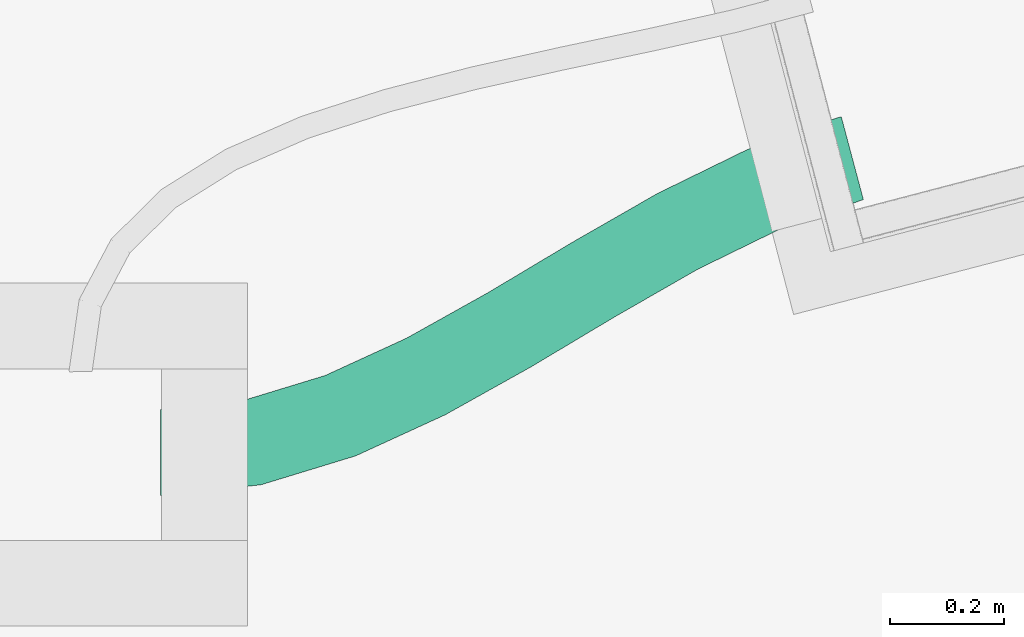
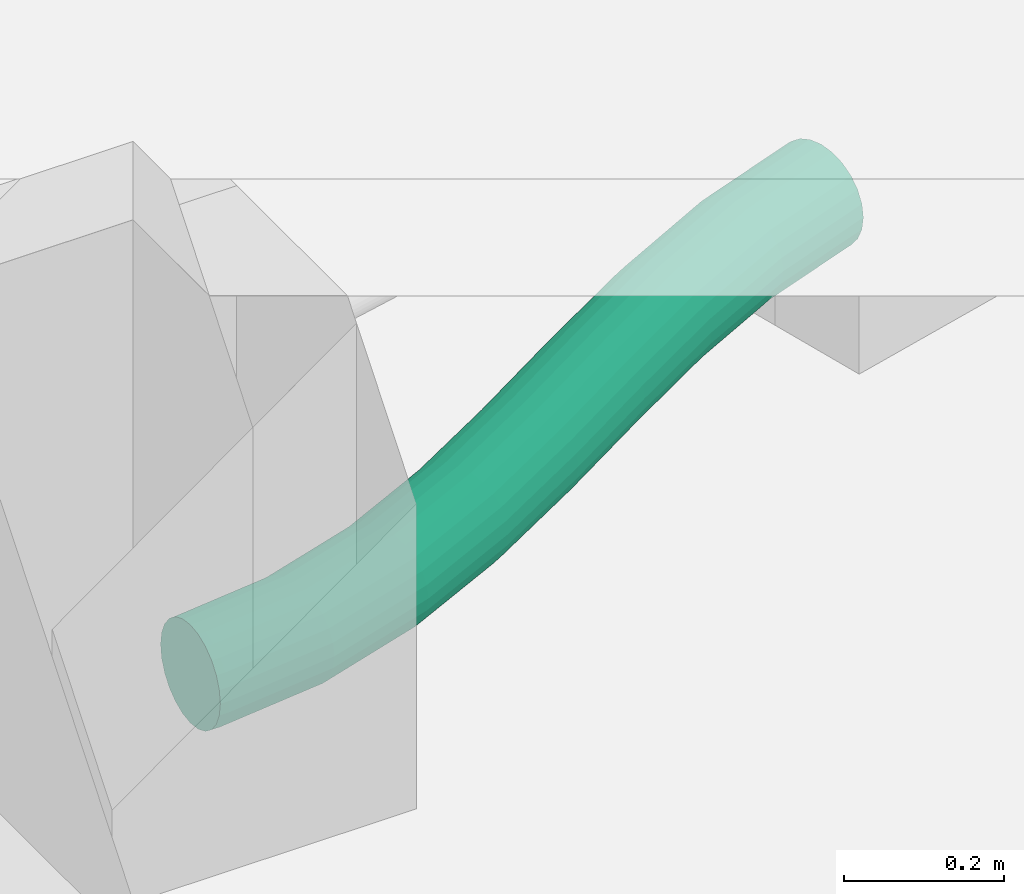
# One storey, part 19 of 29: 1 flow segment.
"""IFC2X3 building model written with IfcOpenShell, lengths in centimetres."""

from ifc_helpers import new_model, entity, si_unit, converted_unit, derived_unit, direction, frame, origin, place, context, subcontext, project, spatial, faceted_brep, type_object, element, save


model = new_model("IFC2X3")

# Units and contexts
model_context = context("Model", 3, precision=0.001, world=origin(), true_north=direction((6.12303176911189e-17, 1.0)))
body_context = subcontext(model_context, "Body", "Model", "MODEL_VIEW")
ifc_project = project(units=[si_unit("LENGTHUNIT", "METRE", prefix="CENTI"), si_unit("AREAUNIT", "SQUARE_METRE"), si_unit("VOLUMEUNIT", "CUBIC_METRE"), converted_unit("PLANEANGLEUNIT", "DEGREE", entity("IfcRatioMeasure", 0.0174532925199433), si_unit("PLANEANGLEUNIT", "RADIAN"), dimensions=[0, 0, 0, 0, 0, 0, 0]), si_unit("MASSUNIT", "GRAM", prefix="KILO"), derived_unit("MASSDENSITYUNIT", [(si_unit("MASSUNIT", "GRAM", prefix="KILO"), 1), (si_unit("LENGTHUNIT", "METRE"), -3)]), si_unit("TIMEUNIT", "SECOND"), si_unit("FREQUENCYUNIT", "HERTZ"), si_unit("THERMODYNAMICTEMPERATUREUNIT", "DEGREE_CELSIUS"), derived_unit("THERMALTRANSMITTANCEUNIT", [(si_unit("MASSUNIT", "GRAM", prefix="KILO"), 1), (si_unit("THERMODYNAMICTEMPERATUREUNIT", "KELVIN"), -1), (si_unit("TIMEUNIT", "SECOND"), -3)]), derived_unit("VOLUMETRICFLOWRATEUNIT", [(si_unit("LENGTHUNIT", "METRE"), 3), (si_unit("TIMEUNIT", "SECOND"), -1)]), si_unit("ELECTRICCURRENTUNIT", "AMPERE"), si_unit("ELECTRICVOLTAGEUNIT", "VOLT"), si_unit("POWERUNIT", "WATT"), si_unit("FORCEUNIT", "NEWTON"), si_unit("ILLUMINANCEUNIT", "LUX"), si_unit("LUMINOUSFLUXUNIT", "LUMEN"), si_unit("LUMINOUSINTENSITYUNIT", "CANDELA"), derived_unit("USERDEFINED", [(si_unit("MASSUNIT", "GRAM", prefix="KILO"), -1), (si_unit("LENGTHUNIT", "METRE"), -2), (si_unit("TIMEUNIT", "SECOND"), 3), (si_unit("LUMINOUSFLUXUNIT", "LUMEN"), 1)]), derived_unit("LINEARVELOCITYUNIT", [(si_unit("LENGTHUNIT", "METRE"), 1), (si_unit("TIMEUNIT", "SECOND"), -1)]), si_unit("PRESSUREUNIT", "PASCAL"), derived_unit("USERDEFINED", [(si_unit("LENGTHUNIT", "METRE"), -2), (si_unit("MASSUNIT", "GRAM", prefix="KILO"), 1), (si_unit("TIMEUNIT", "SECOND"), -2)])], contexts=[model_context])

# Site, building, storey
site_placement = place(None, origin())
site = spatial("IfcSite", under=ifc_project, at=site_placement, Name="Default", CompositionType="ELEMENT")
building_placement = place(site_placement, origin())
building = spatial("IfcBuilding", under=site, at=building_placement, Name="CAGE 03", CompositionType="ELEMENT")
storey_placement = place(building_placement, frame((0.0, 0.0, -34.0)))
storey = spatial("IfcBuildingStorey", under=building, at=storey_placement, Name="+3.66", CompositionType="ELEMENT", Elevation=-34.0000000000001)

# Flow segment
pipe_segment_type = type_object("IfcPipeSegmentType", Name="Canalisation souple arrondie:Flex - Round", PredefinedType="FLEXIBLESEGMENT")
flow_segment_placement = place(storey_placement, frame((11276.2156607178, 3660.17423652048, -80.1595294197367)))
element("IfcFlowSegment", 1, at=flow_segment_placement, inside=storey, type_object=pipe_segment_type, Name="Canalisation souple arrondie:Flex - Round", ObjectType="Canalisation souple arrondie:Flex - Round", context=body_context, shape_type="Brep", body=[
    faceted_brep([(119.541802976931, 64.2181963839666, 2.35622636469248), (119.234461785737, 65.3697789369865, 3.90952722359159), (119.041259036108, 66.0936939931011, 5.71838438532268), (118.975361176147, 66.3406079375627, 7.65952722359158), (119.041259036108, 66.0936939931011, 9.60067006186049), (119.234461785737, 65.3697789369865, 11.4095272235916), (119.541802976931, 64.2181963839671, 12.9628280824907), (119.942337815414, 62.7174247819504, 14.1547177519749), (120.408770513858, 60.9697392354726, 14.9039709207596), (120.909314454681, 59.0942416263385, 15.1595272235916), (121.409858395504, 57.2187440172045, 14.9039709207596), (121.876291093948, 55.4710584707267, 14.1547177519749), (122.276825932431, 53.97028686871, 12.9628280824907), (122.584167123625, 52.8187043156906, 11.4095272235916), (122.777369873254, 52.094789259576, 9.6006700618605), (122.843267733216, 51.8478753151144, 7.6595272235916), (122.777369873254, 52.094789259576, 5.71838438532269), (122.584167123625, 52.8187043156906, 3.9095272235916), (122.276825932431, 53.97028686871, 2.3562263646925), (121.876291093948, 55.4710584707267, 1.16433669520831), (121.409858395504, 57.2187440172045, 0.415083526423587), (120.909314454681, 59.0942416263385, 0.159527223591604), (120.408770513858, 60.9697392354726, 0.415083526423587), (119.942337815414, 62.7174247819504, 1.16433669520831), (122.335658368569, 52.7523808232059, 3.90952722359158), (121.982764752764, 53.8918060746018, 2.35622636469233), (122.557496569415, 52.0361081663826, 5.71838438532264), (122.633161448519, 51.7918009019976, 7.65952722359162), (120.987300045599, 57.1059691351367, 0.415083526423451), (120.41256822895, 58.9616670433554, 0.159527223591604), (121.522864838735, 55.3767339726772, 1.16433669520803), (119.8378364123, 60.8173649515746, 0.41508352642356), (119.302271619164, 62.5466001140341, 1.16433669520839), (118.842371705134, 64.0315280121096, 2.35622636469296), (118.489478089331, 65.170953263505, 3.90952722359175), (118.267639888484, 65.8872259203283, 5.71838438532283), (118.191975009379, 66.1315331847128, 7.65952722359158), (118.267639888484, 65.8872259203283, 9.60067006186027), (118.489478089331, 65.170953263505, 11.4095272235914), (118.842371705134, 64.0315280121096, 12.9628280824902), (119.302271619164, 62.5466001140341, 14.1547177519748), (119.8378364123, 60.8173649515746, 14.9039709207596), (120.41256822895, 58.9616670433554, 15.1595272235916), (120.987300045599, 57.1059691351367, 14.9039709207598), (121.522864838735, 55.3767339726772, 14.1547177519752), (121.982764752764, 53.8918060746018, 12.9628280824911), (122.557496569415, 52.0361081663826, 9.60067006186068), (122.335658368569, 52.7523808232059, 11.4095272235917), (0.0167527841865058, 14.1563819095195, 3.90952722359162), (0.0153260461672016, 12.9644930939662, 2.35622636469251), (0.0134666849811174, 11.4111933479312, 1.16433669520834), (0.0113014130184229, 9.60233748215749, 0.415083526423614), (0.0089777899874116, 7.66119603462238, 0.159527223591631), (0.00665416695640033, 5.72005458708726, 0.415083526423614), (0.0044888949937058, 3.9111987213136, 1.16433669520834), (0.00262953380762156, 2.3578989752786, 2.35622636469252), (0.00120279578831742, 1.16601015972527, 3.90952722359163), (0.000305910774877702, 0.416757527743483, 5.71838438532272), (0.0, 0.16120140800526, 7.65952722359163), (0.000305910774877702, 0.416757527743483, 9.60067006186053), (0.00120279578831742, 1.16601015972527, 11.4095272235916), (0.00262953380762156, 2.3578989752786, 12.9628280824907), (0.0044888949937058, 3.9111987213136, 14.1547177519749), (0.00665416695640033, 5.72005458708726, 14.9039709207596), (0.0089777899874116, 7.66119603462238, 15.1595272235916), (0.0113014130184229, 9.60233748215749, 14.9039709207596), (0.0134666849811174, 11.4111933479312, 14.1547177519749), (0.0153260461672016, 12.9644930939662, 12.9628280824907), (0.0167527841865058, 14.1563819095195, 11.4095272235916), (0.0176496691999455, 14.9056345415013, 9.60067006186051), (0.0179555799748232, 15.1611906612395, 7.6595272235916), (0.0176496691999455, 14.9056345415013, 5.71838438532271), (108.170063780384, 46.9487075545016, 5.71838438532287), (107.879626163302, 47.6407234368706, 3.90952722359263), (108.269126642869, 46.7126738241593, 7.65952722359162), (107.417606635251, 48.7415617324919, 2.35622636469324), (106.114312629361, 51.8468762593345, 0.415083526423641), (105.361855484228, 53.6397304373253, 0.159527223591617), (106.815491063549, 50.176202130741, 1.16433669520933), (104.609398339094, 55.4325846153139, 0.415083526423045), (103.908219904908, 57.1032587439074, 1.1643366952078), (103.306104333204, 58.5378991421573, 2.35622636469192), (102.844084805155, 59.6387374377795, 3.90952722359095), (102.553647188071, 60.3307533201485, 5.71838438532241), (102.454584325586, 60.5667870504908, 7.65952722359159), (102.553647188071, 60.3307533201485, 9.6006700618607), (102.844084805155, 59.6387374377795, 11.4095272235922), (103.306104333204, 58.5378991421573, 12.9628280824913), (103.908219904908, 57.1032587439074, 14.1547177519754), (104.609398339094, 55.4325846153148, 14.90397092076), (105.361855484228, 53.6397304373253, 15.1595272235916), (106.114312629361, 51.8468762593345, 14.9039709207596), (106.815491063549, 50.176202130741, 14.1547177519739), (107.417606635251, 48.7415617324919, 12.96282808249), (107.879626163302, 47.6407234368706, 11.4095272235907), (108.170063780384, 46.9487075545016, 9.60067006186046), (93.7233892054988, 39.8833030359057, 5.71838438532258), (93.3720188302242, 40.5455186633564, 3.90952722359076), (93.8432350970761, 39.6574336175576, 7.65952722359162), (92.813069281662, 41.5989515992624, 2.35622636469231), (91.2363489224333, 44.5705420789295, 0.415083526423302), (90.3260289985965, 46.2861906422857, 0.159527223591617), (92.0846320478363, 42.9718121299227, 1.16433669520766), (89.4157090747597, 48.0018392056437, 0.415083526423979), (88.5674259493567, 49.6005691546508, 1.16433669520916), (87.8389887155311, 50.9734296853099, 2.35622636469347), (87.2800391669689, 52.0268626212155, 3.90952722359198), (86.9286687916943, 52.6890782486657, 5.71838438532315), (86.8088229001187, 52.9149476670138, 7.65952722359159), (86.9286687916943, 52.6890782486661, 9.60067006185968), (87.2800391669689, 52.0268626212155, 11.4095272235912), (87.8389887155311, 50.9734296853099, 12.9628280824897), (88.5674259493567, 49.6005691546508, 14.154717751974), (89.4157090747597, 48.0018392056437, 14.9039709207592), (90.3260289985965, 46.2861906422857, 15.1595272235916), (91.2363489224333, 44.5705420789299, 14.9039709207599), (92.0846320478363, 42.9718121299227, 14.1547177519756), (92.813069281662, 41.5989515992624, 12.962828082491), (93.3720188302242, 40.5455186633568, 11.4095272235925), (93.7233892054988, 39.8833030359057, 9.60067006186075), (79.2687904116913, 31.592037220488, 5.71838438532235), (78.8901903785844, 32.238633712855, 3.90952722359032), (79.3979238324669, 31.3714951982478, 7.65952722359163), (78.2879246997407, 33.2672201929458, 2.35622636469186), (76.5890154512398, 36.1687222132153, 0.415083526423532), (75.6081497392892, 37.8439051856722, 0.159527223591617), (77.5030367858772, 34.6077001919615, 1.16433669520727), (74.6272840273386, 39.5190881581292, 0.415083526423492), (73.7132626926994, 41.0801101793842, 1.16433669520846), (72.9283747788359, 42.4205901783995, 2.35622636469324), (72.3261090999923, 43.4491766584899, 3.90952722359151), (71.9475090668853, 44.0957731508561, 5.71838438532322), (71.8183756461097, 44.3163151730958, 7.65952722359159), (71.9475090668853, 44.0957731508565, 9.6006700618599), (72.3261090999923, 43.4491766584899, 11.4095272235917), (72.9283747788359, 42.4205901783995, 12.96282808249), (73.7132626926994, 41.0801101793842, 14.1547177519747), (74.6272840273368, 39.5190881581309, 14.903970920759), (75.6081497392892, 37.8439051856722, 15.1595272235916), (76.5890154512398, 36.1687222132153, 14.9039709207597), (77.5030367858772, 34.6077001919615, 14.154717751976), (78.2879246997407, 33.2672201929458, 12.9628280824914), (78.8901903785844, 32.238633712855, 11.409527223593), (79.2687904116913, 31.5920372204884, 9.60067006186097), (64.7674072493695, 22.6286970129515, 7.65952722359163), (64.6395311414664, 22.8499903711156, 5.71838438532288), (64.264617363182, 23.4987896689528, 3.90952722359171), (63.6682156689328, 24.5308803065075, 2.35622636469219), (62.8909698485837, 25.8759270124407, 1.16433669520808), (61.9858479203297, 27.4422670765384, 0.41508352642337), (61.0145324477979, 29.1231570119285, 0.159527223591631), (60.0432169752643, 30.8040469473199, 0.415083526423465), (59.1380950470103, 32.3703870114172, 1.16433669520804), (58.3608492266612, 33.7154337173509, 2.35622636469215), (57.764447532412, 34.7475243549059, 3.90952722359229), (57.3895337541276, 35.3963236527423, 5.71838438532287), (57.2616576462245, 35.6176170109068, 7.6595272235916), (57.3895337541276, 35.3963236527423, 9.60067006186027), (57.764447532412, 34.7475243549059, 11.4095272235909), (58.3608492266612, 33.7154337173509, 12.962828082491), (60.0432169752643, 30.8040469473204, 14.9039709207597), (61.0145324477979, 29.1231570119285, 15.1595272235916), (59.1380950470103, 32.3703870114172, 14.1547177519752), (61.9858479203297, 27.4422670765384, 14.9039709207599), (62.8909698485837, 25.8759270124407, 14.1547177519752), (63.6682156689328, 24.5308803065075, 12.9628280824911), (64.264617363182, 23.4987896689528, 11.4095272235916), (64.6395311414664, 22.8499903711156, 9.60067006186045), (49.7488071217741, 14.241198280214, 7.65952722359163), (49.6330464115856, 14.4692577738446, 5.7183843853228), (49.2936531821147, 15.1378943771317, 3.90952722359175), (48.7537565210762, 16.201541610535, 2.3562263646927), (48.0501494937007, 17.5877136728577, 1.16433669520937), (47.2307817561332, 19.2019452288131, 0.41508352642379), (46.3514918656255, 20.9342290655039, 0.159527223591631), (45.472201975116, 22.6665129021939, 0.415083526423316), (44.6528342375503, 24.2807444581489, 1.16433669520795), (43.949227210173, 25.6669165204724, 2.35622636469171), (43.4093305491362, 26.7305637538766, 3.90952722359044), (43.0699373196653, 27.3992003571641, 5.71838438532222), (42.9541766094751, 27.6272598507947, 7.6595272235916), (43.0699373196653, 27.3992003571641, 9.60067006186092), (43.4093305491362, 26.730563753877, 11.4095272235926), (43.949227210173, 25.6669165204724, 12.9628280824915), (45.472201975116, 22.6665129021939, 14.9039709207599), (46.3514918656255, 20.9342290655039, 15.1595272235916), (44.6528342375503, 24.2807444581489, 14.1547177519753), (47.2307817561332, 19.2019452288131, 14.9039709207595), (48.0501494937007, 17.5877136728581, 14.1547177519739), (48.7537565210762, 16.201541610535, 12.9628280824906), (49.2936531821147, 15.1378943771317, 11.4095272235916), (49.6330464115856, 14.4692577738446, 9.60067006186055), (34.0953753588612, 7.06075920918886, 7.65952722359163), (34.0043962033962, 7.3001863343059, 5.71838438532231), (33.7376588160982, 8.002151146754, 3.90952722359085), (33.3133409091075, 9.11881590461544, 2.35622636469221), (32.7603590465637, 10.5740817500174, 1.16433669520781), (32.1163980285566, 12.2687747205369, 0.415083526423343), (31.4253427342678, 14.0874042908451, 0.159527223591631), (30.7342874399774, 15.9060338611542, 0.415083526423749), (30.0903264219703, 17.6007268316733, 1.16433669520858), (29.5373445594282, 19.0559926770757, 2.35622636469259), (29.1130266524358, 20.1726574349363, 3.90952722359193), (28.8462892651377, 20.8746222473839, 5.71838438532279), (28.7553101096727, 21.114049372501, 7.6595272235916), (28.8462892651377, 20.8746222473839, 9.60067006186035), (29.1130266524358, 20.1726574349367, 11.4095272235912), (29.5373445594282, 19.0559926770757, 12.9628280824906), (30.7342874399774, 15.9060338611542, 14.9039709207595), (31.4253427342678, 14.0874042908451, 15.1595272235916), (30.0903264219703, 17.6007268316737, 14.1547177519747), (32.1163980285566, 12.2687747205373, 14.9039709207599), (32.7603590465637, 10.5740817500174, 14.1547177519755), (33.3133409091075, 9.11881590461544, 12.9628280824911), (33.7376588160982, 8.002151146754, 11.4095272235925), (34.0043962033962, 7.3001863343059, 9.60067006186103), (17.57801912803, 2.02012973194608, 7.65952722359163), (17.5256941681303, 2.27135302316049, 5.71838438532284), (17.3722851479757, 3.00790244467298, 3.90952722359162), (17.1282466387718, 4.17958337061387, 2.35622636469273), (16.8102094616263, 5.70654768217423, 1.1643366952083), (16.4398473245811, 7.48473528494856, 0.415083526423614), (16.0423997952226, 9.39296563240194, 0.159527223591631), (15.6449522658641, 11.3011959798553, 0.415083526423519), (15.2745901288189, 13.0793835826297, 1.16433669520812), (14.9565529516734, 14.6063478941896, 2.35622636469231), (14.7125144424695, 15.7780288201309, 3.90952722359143), (14.5591054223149, 16.5145782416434, 5.71838438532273), (14.5067804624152, 16.7658015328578, 7.6595272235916), (14.5591054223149, 16.5145782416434, 9.60067006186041), (14.7125144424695, 15.7780288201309, 11.4095272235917), (14.9565529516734, 14.60634789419, 12.9628280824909), (15.6449522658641, 11.3011959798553, 14.9039709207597), (16.0423997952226, 9.39296563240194, 15.1595272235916), (15.2745901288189, 13.0793835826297, 14.1547177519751), (16.4398473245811, 7.48473528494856, 14.9039709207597), (16.8102094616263, 5.70654768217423, 14.154717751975), (17.1282466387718, 4.17958337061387, 12.9628280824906), (17.3722851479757, 3.00790244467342, 11.4095272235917), (17.5256941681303, 2.27135302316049, 9.60067006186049), (1.39860412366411, 0.15952722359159, 7.65952722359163), (1.38411059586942, 0.415101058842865, 5.7183843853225), (1.34161772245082, 1.16440563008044, 3.90952722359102), (1.27402132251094, 2.35637706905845, 2.35622636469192), (1.18592797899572, 3.90978449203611, 1.164336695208), (1.08334110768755, 5.71876575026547, 0.41508352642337), (0.973251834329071, 7.66004176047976, 0.159527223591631), (0.863162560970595, 9.60131777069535, 0.415083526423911), (0.760575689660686, 11.4102990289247, 1.16433669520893), (0.672482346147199, 12.9637064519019, 2.35622636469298), (0.604885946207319, 14.1556778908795, 3.90952722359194), (0.562393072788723, 14.9049824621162, 5.71838438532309), (0.547899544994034, 15.1605562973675, 7.6595272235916), (0.562393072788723, 14.9049824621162, 9.60067006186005), (0.604885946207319, 14.1556778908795, 11.4095272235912), (0.672482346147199, 12.9637064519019, 12.9628280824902), (0.863162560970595, 9.60131777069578, 14.9039709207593), (0.973251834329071, 7.66004176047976, 15.1595272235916), (0.760575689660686, 11.4102990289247, 14.1547177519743), (1.08334110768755, 5.7187657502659, 14.90397092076), (1.18592797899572, 3.90978449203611, 14.1547177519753), (1.27402132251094, 2.35637706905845, 12.9628280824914), (1.34161772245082, 1.16440563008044, 11.4095272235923), (1.38411059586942, 0.415101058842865, 9.60067006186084)], [[[0, 1, 2, 3, 4, 5, 6, 7, 8, 9, 10, 11, 12, 13, 14, 15, 16, 17, 18, 19, 20, 21, 22, 23]], [[17, 24, 25, 18]], [[26, 24, 17, 16]], [[15, 27, 26, 16]], [[28, 29, 21, 20]], [[30, 28, 20, 19]], [[25, 30, 19, 18]], [[23, 22, 31, 32]], [[0, 23, 32, 33]], [[21, 29, 31, 22]], [[2, 1, 34, 35]], [[3, 2, 35, 36]], [[33, 34, 1, 0]], [[3, 36, 37, 4]], [[4, 37, 38, 5]], [[5, 38, 39, 6]], [[7, 40, 41, 8]], [[8, 41, 42, 9]], [[6, 39, 40, 7]], [[43, 44, 11, 10]], [[42, 43, 10, 9]], [[11, 44, 45, 12]], [[46, 27, 15, 14]], [[47, 46, 14, 13]], [[12, 45, 47, 13]], [[48, 49, 50, 51, 52, 53, 54, 55, 56, 57, 58, 59, 60, 61, 62, 63, 64, 65, 66, 67, 68, 69, 70, 71]], [[72, 73, 24, 26]], [[74, 72, 26, 27]], [[25, 24, 73, 75]], [[76, 77, 29, 28]], [[78, 76, 28, 30]], [[75, 78, 30, 25]], [[31, 29, 77, 79]], [[32, 31, 79, 80]], [[33, 32, 80, 81]], [[35, 34, 82, 83]], [[36, 35, 83, 84]], [[81, 82, 34, 33]], [[36, 84, 85, 37]], [[37, 85, 86, 38]], [[38, 86, 87, 39]], [[39, 87, 88, 40]], [[40, 88, 89, 41]], [[90, 42, 41, 89]], [[91, 92, 44, 43]], [[90, 91, 43, 42]], [[93, 45, 44, 92]], [[94, 95, 46, 47]], [[94, 47, 45, 93]], [[74, 27, 46, 95]], [[96, 97, 73, 72]], [[98, 96, 72, 74]], [[99, 75, 73, 97]], [[100, 101, 77, 76]], [[102, 100, 76, 78]], [[102, 78, 75, 99]], [[77, 101, 103, 79]], [[79, 103, 104, 80]], [[105, 81, 80, 104]], [[82, 106, 107, 83]], [[83, 107, 108, 84]], [[106, 82, 81, 105]], [[85, 84, 108, 109]], [[86, 85, 109, 110]], [[110, 111, 87, 86]], [[88, 87, 111, 112]], [[89, 88, 112, 113]], [[90, 89, 113, 114]], [[115, 116, 92, 91]], [[114, 115, 91, 90]], [[93, 92, 116, 117]], [[118, 119, 95, 94]], [[117, 118, 94, 93]], [[74, 95, 119, 98]], [[120, 121, 97, 96]], [[122, 120, 96, 98]], [[123, 99, 97, 121]], [[124, 125, 101, 100]], [[126, 124, 100, 102]], [[126, 102, 99, 123]], [[101, 125, 127, 103]], [[103, 127, 128, 104]], [[129, 105, 104, 128]], [[106, 130, 131, 107]], [[107, 131, 132, 108]], [[130, 106, 105, 129]], [[109, 108, 132, 133]], [[110, 109, 133, 134]], [[134, 135, 111, 110]], [[112, 111, 135, 136]], [[113, 112, 136, 137]], [[114, 113, 137, 138]], [[139, 140, 116, 115]], [[138, 139, 115, 114]], [[117, 116, 140, 141]], [[142, 143, 119, 118]], [[141, 142, 118, 117]], [[98, 119, 143, 122]], [[122, 144, 145, 120]], [[120, 145, 146, 121]], [[147, 123, 121, 146]], [[123, 147, 148, 126]], [[126, 148, 149, 124]], [[150, 125, 124, 149]], [[151, 152, 128, 127]], [[150, 151, 127, 125]], [[153, 129, 128, 152]], [[154, 155, 131, 130]], [[154, 130, 129, 153]], [[156, 132, 131, 155]], [[157, 158, 134, 133]], [[156, 157, 133, 132]], [[158, 159, 135, 134]], [[160, 161, 138, 137]], [[162, 160, 137, 136]], [[159, 162, 136, 135]], [[139, 138, 161, 163]], [[140, 139, 163, 164]], [[141, 140, 164, 165]], [[143, 142, 166, 167]], [[122, 143, 167, 144]], [[165, 166, 142, 141]], [[144, 168, 169, 145]], [[145, 169, 170, 146]], [[146, 170, 171, 147]], [[147, 171, 172, 148]], [[148, 172, 173, 149]], [[174, 150, 149, 173]], [[175, 176, 152, 151]], [[174, 175, 151, 150]], [[177, 153, 152, 176]], [[178, 179, 155, 154]], [[178, 154, 153, 177]], [[180, 156, 155, 179]], [[181, 182, 158, 157]], [[180, 181, 157, 156]], [[159, 158, 182, 183]], [[184, 185, 161, 160]], [[186, 184, 160, 162]], [[183, 186, 162, 159]], [[163, 161, 185, 187]], [[164, 163, 187, 188]], [[165, 164, 188, 189]], [[167, 166, 190, 191]], [[144, 167, 191, 168]], [[189, 190, 166, 165]], [[168, 192, 193, 169]], [[169, 193, 194, 170]], [[170, 194, 195, 171]], [[171, 195, 196, 172]], [[172, 196, 197, 173]], [[198, 174, 173, 197]], [[199, 200, 176, 175]], [[198, 199, 175, 174]], [[201, 177, 176, 200]], [[202, 203, 179, 178]], [[202, 178, 177, 201]], [[204, 180, 179, 203]], [[205, 206, 182, 181]], [[204, 205, 181, 180]], [[183, 182, 206, 207]], [[208, 209, 185, 184]], [[210, 208, 184, 186]], [[207, 210, 186, 183]], [[187, 185, 209, 211]], [[188, 187, 211, 212]], [[189, 188, 212, 213]], [[191, 190, 214, 215]], [[168, 191, 215, 192]], [[213, 214, 190, 189]], [[192, 216, 217, 193]], [[193, 217, 218, 194]], [[194, 218, 219, 195]], [[195, 219, 220, 196]], [[196, 220, 221, 197]], [[222, 198, 197, 221]], [[223, 224, 200, 199]], [[222, 223, 199, 198]], [[225, 201, 200, 224]], [[226, 227, 203, 202]], [[226, 202, 201, 225]], [[228, 204, 203, 227]], [[229, 230, 206, 205]], [[228, 229, 205, 204]], [[207, 206, 230, 231]], [[232, 233, 209, 208]], [[234, 232, 208, 210]], [[231, 234, 210, 207]], [[211, 209, 233, 235]], [[212, 211, 235, 236]], [[213, 212, 236, 237]], [[215, 214, 238, 239]], [[192, 215, 239, 216]], [[237, 238, 214, 213]], [[217, 216, 240, 241]], [[218, 217, 241, 242]], [[242, 243, 219, 218]], [[220, 219, 243, 244]], [[221, 220, 244, 245]], [[222, 221, 245, 246]], [[247, 248, 224, 223]], [[246, 247, 223, 222]], [[225, 224, 248, 249]], [[250, 251, 227, 226]], [[249, 250, 226, 225]], [[228, 227, 251, 252]], [[253, 254, 230, 229]], [[252, 253, 229, 228]], [[255, 231, 230, 254]], [[256, 257, 233, 232]], [[258, 256, 232, 234]], [[258, 234, 231, 255]], [[233, 257, 259, 235]], [[235, 259, 260, 236]], [[261, 237, 236, 260]], [[238, 262, 263, 239]], [[239, 263, 240, 216]], [[262, 238, 237, 261]], [[241, 240, 58, 57]], [[242, 241, 57, 56]], [[243, 242, 56, 55]], [[245, 244, 54, 53]], [[246, 245, 53, 52]], [[55, 54, 244, 243]], [[247, 246, 52, 51]], [[248, 247, 51, 50]], [[249, 248, 50, 49]], [[251, 250, 48, 71]], [[252, 251, 71, 70]], [[249, 49, 48, 250]], [[252, 70, 69, 253]], [[253, 69, 68, 254]], [[254, 68, 67, 255]], [[258, 66, 65, 256]], [[256, 65, 64, 257]], [[258, 255, 67, 66]], [[257, 64, 63, 259]], [[259, 63, 62, 260]], [[260, 62, 61, 261]], [[262, 60, 59, 263]], [[263, 59, 58, 240]], [[261, 61, 60, 262]]]),
])

save(model, "model.ifc")
